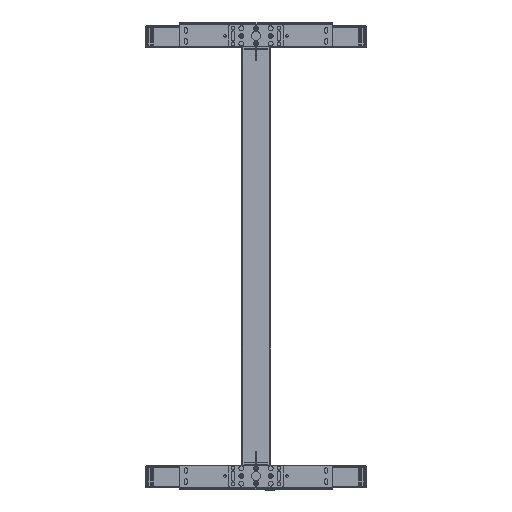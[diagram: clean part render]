
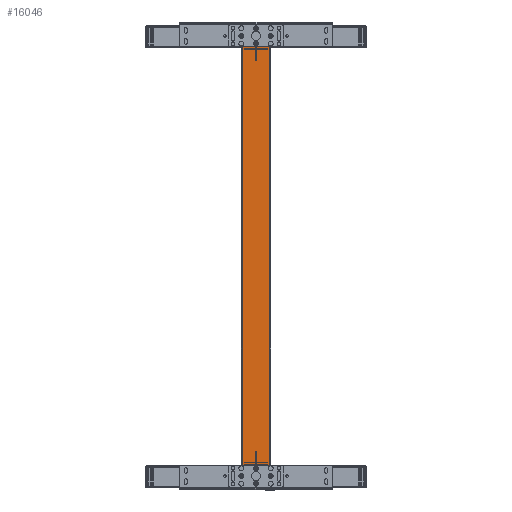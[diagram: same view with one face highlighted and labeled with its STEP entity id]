
A CAD part, top view. The second image highlights one B-rep face of the part: STEP entity #16046.
In plain terms, the highlighted planar face has unit normal (0, 0, 1).
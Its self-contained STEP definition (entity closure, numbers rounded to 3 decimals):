
#1205=LINE('',#31499,#2224);
#1206=LINE('',#31501,#2225);
#1207=LINE('',#31503,#2226);
#1208=LINE('',#31505,#2227);
#2224=VECTOR('',#23764,1000.);
#2225=VECTOR('',#23767,1000.);
#2226=VECTOR('',#23768,1000.);
#2227=VECTOR('',#23769,1000.);
#3205=PLANE('',#20089);
#6202=ORIENTED_EDGE('',*,*,#9206,.F.);
#6203=ORIENTED_EDGE('',*,*,#9205,.F.);
#6204=ORIENTED_EDGE('',*,*,#9207,.T.);
#6205=ORIENTED_EDGE('',*,*,#9208,.T.);
#9205=EDGE_CURVE('',#10888,#10887,#1205,.T.);
#9206=EDGE_CURVE('',#10887,#10889,#1206,.T.);
#9207=EDGE_CURVE('',#10888,#10890,#1207,.T.);
#9208=EDGE_CURVE('',#10890,#10889,#1208,.T.);
#10887=VERTEX_POINT('',#31496);
#10888=VERTEX_POINT('',#31498);
#10889=VERTEX_POINT('',#31502);
#10890=VERTEX_POINT('',#31504);
#13017=EDGE_LOOP('',(#6202,#6203,#6204,#6205));
#14441=FACE_BOUND('',#13017,.T.);
#16046=ADVANCED_FACE('',(#14441),#3205,.T.);
#20089=AXIS2_PLACEMENT_3D('',#31500,#23765,#23766);
#23764=DIRECTION('',(0.,-1.,0.));
#23765=DIRECTION('',(0.,0.,1.));
#23766=DIRECTION('',(1.,0.,0.));
#23767=DIRECTION('',(-1.,0.,0.));
#23768=DIRECTION('',(-1.,0.,0.));
#23769=DIRECTION('',(0.,-1.,0.));
#31496=CARTESIAN_POINT('',(37.,0.,25.));
#31498=CARTESIAN_POINT('',(37.,1150.,25.));
#31499=CARTESIAN_POINT('',(37.,1150.,25.));
#31500=CARTESIAN_POINT('',(37.,1150.,25.));
#31501=CARTESIAN_POINT('',(37.,0.,25.));
#31502=CARTESIAN_POINT('',(-37.,0.,25.));
#31503=CARTESIAN_POINT('',(37.,1150.,25.));
#31504=CARTESIAN_POINT('',(-37.,1150.,25.));
#31505=CARTESIAN_POINT('',(-37.,1150.,25.));
